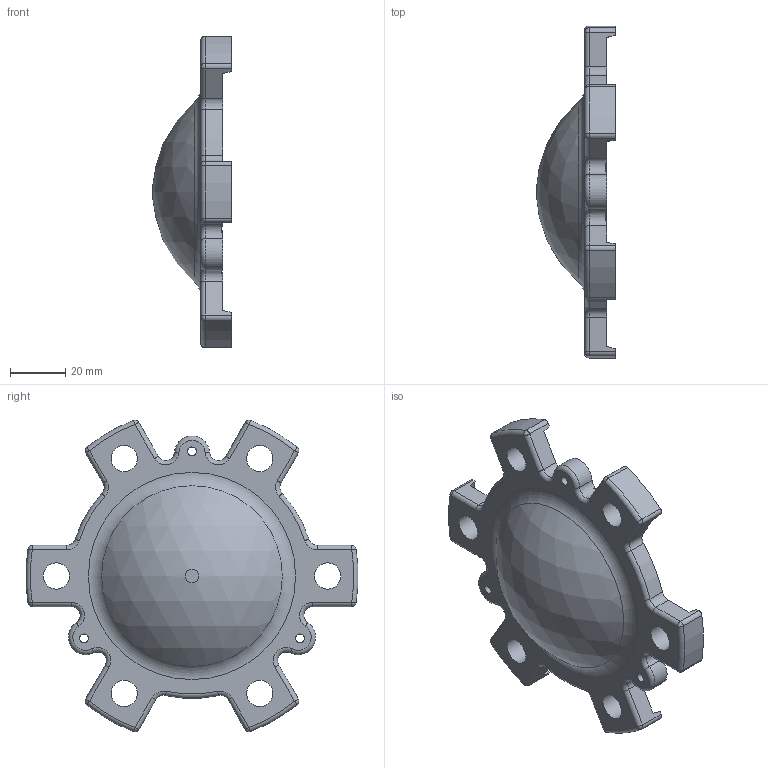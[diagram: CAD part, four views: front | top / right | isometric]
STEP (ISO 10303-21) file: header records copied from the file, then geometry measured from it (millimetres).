
FILE_DESCRIPTION(/* description */ (''),/* implementation_level */ '2;1');
FILE_NAME(/* name */ '25202 Back Cover, Complete.step',/* time_stamp */ '2023-01-24T20:55:10+11:00',/* author */ (''),/* organization */ (''),/* preprocessor_version */ 'ST-DEVELOPER v19.2',/* originating_system */ 'Autodesk Translation Framework v11.17.0.187',/* authorisation */ '');
FILE_SCHEMA (('AUTOMOTIVE_DESIGN { 1 0 10303 214 3 1 1 }'));
Length unit declared in the file: inch
Products named in the file (1): 25202 Back Cover, Complete
Bounding box: 28.51 x 120.47 x 113.09 mm (x, y, z)
Volume: 61063.9 mm3; surface area: 33068.6 mm2
Topology: 3 solids, 3 shells, 159 faces, 381 edges, 231 vertices
Faces by surface type: cylinder 72, plane 31, torus 26, sphere 16, cone 11, bspline 3
Full cylindrical faces by diameter (mm): 1.587 x1, 3.175 x6, 3.572 x1, 4.762 x2, 9.525 x6, 69.85 x1, 73.223 x1
Entity records: 4968 total; most frequent: CARTESIAN_POINT 1016, DIRECTION 901, ORIENTED_EDGE 762, AXIS2_PLACEMENT_3D 385, EDGE_CURVE 381, VERTEX_POINT 231, CIRCLE 228, EDGE_LOOP 186
